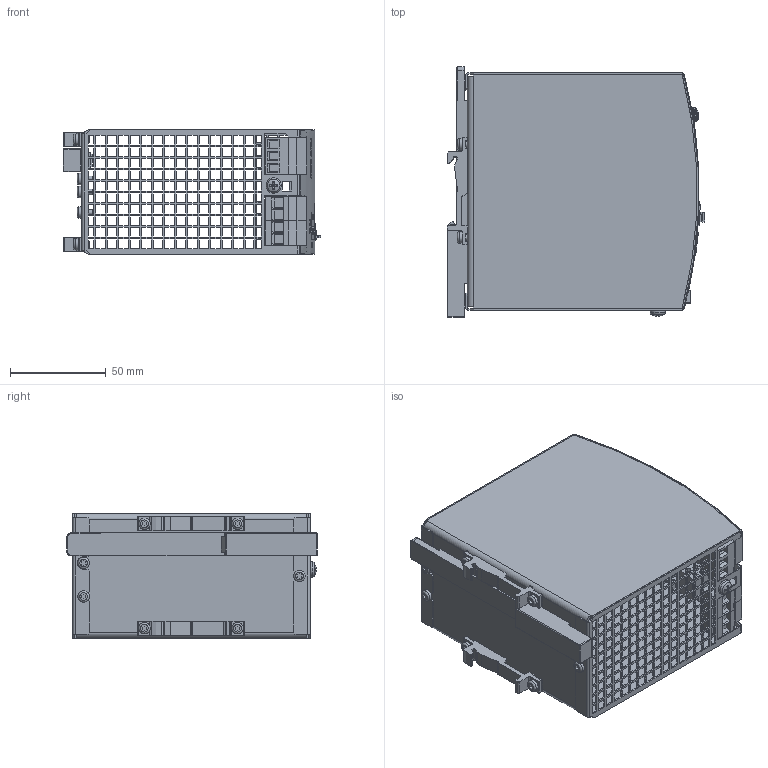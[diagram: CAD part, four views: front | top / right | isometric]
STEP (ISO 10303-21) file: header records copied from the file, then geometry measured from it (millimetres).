
FILE_DESCRIPTION((''),'2;1');
FILE_NAME('C:\Users\rahns\Desktop\Sylvia Info´s\Dateien für Vertrieb\CPS20\md3_cps20_241.stp','2012-06-04T14:31:51',('rahns'),(''),'Autodesk Inventor 2009','Autodesk Inventor 2009','');
FILE_SCHEMA(('AUTOMOTIVE_DESIGN { 1 0 10303 214 1 1 1 1 }'));
Length unit declared in the file: millimetre
Products named in the file (14): 382; HOUSING COVER 382; HOUSING BODY 382; TERMINAL 2P D1; TERMINAL 3P R6,35 T; T HOLDER; SLIDER; POTENTIOMETER COVER; JUMPER; ALT_ XT-LP2SW-R3; SCREW 3x6; SCREW 4x8; JUMPER BRACKET; FRONTFOIL 382
Assembly tree (21 placements, depth 2):
  382
    HOUSING COVER 382
    HOUSING BODY 382
    TERMINAL 2P D1  x2
    TERMINAL 3P R6,35 T
    T HOLDER  x2
    SLIDER
    POTENTIOMETER COVER
    JUMPER
    ALT_ XT-LP2SW-R3
    SCREW 3x6  x7
    SCREW 4x8
    JUMPER BRACKET
    FRONTFOIL 382
Bounding box: 134.57 x 130.5 x 65 mm (x, y, z)
Volume: 93699.9 mm3; surface area: 139828 mm2
Topology: 21 solids, 21 shells, 3282 faces, 9233 edges, 6111 vertices
Faces by surface type: plane 2530, bspline 438, cylinder 253, torus 27, cone 21, sphere 13
Full cylindrical faces by diameter (mm): 1 x2, 2.696 x1, 3 x7, 3.1 x4, 3.145 x1, 3.5 x1, 3.621 x1, 4 x1, 4.355 x1, 4.5 x2, 5.15 x7, 6 x7
Entity records: 107099 total; most frequent: CARTESIAN_POINT 28335, ORIENTED_EDGE 17132, DIRECTION 13796, EDGE_CURVE 8566, VECTOR 6876, LINE 6876, VERTEX_POINT 5697, EDGE_LOOP 3913
